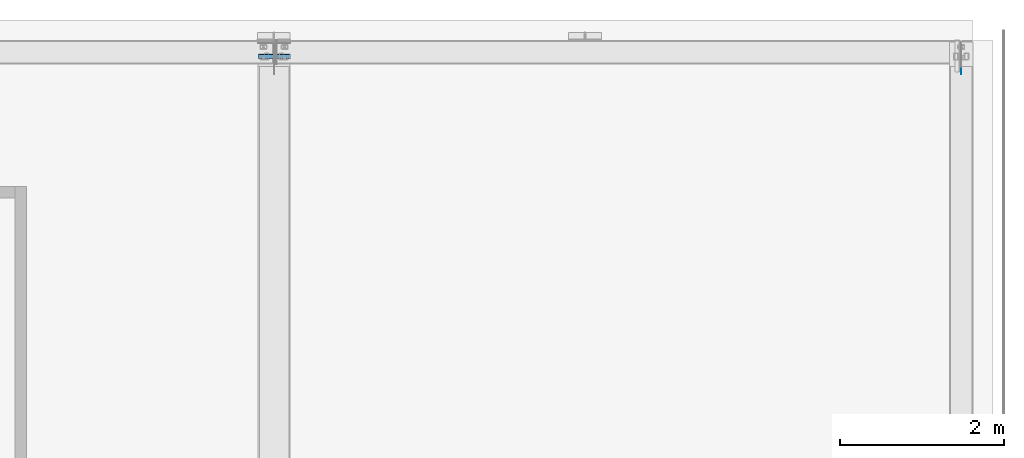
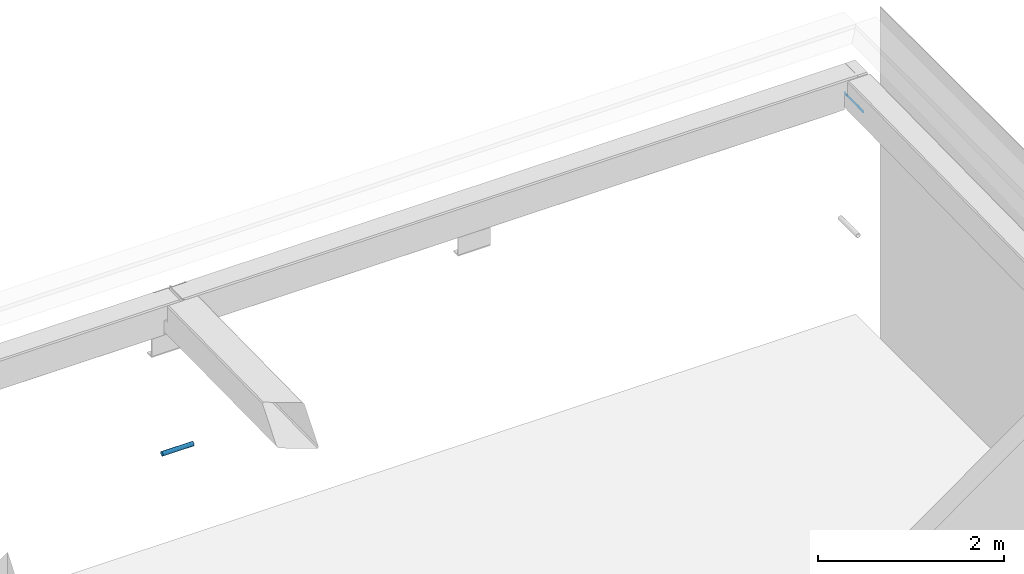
# One storey, part 52 of 186: 2 beams.
"""IFC4X3_ADD2 building model written with IfcOpenShell, lengths in millimetres."""

from ifc_helpers import new_model, si_unit, direction, frame, frame_2d, origin_with_axes, place, context, subcontext, project, spatial, rectangle, hollow_circle, extrude, material, element, save


model = new_model("IFC4X3_ADD2")

# Units and contexts
model_context = context("Model", 3, precision=1e-05, world=origin_with_axes(), true_north=direction((0.0, 1.0)))
body_context = subcontext(model_context, "Body", "Model", "MODEL_VIEW")
ifc_project = project(units=[si_unit("LENGTHUNIT", "METRE", prefix="MILLI"), si_unit("AREAUNIT", "SQUARE_METRE"), si_unit("VOLUMEUNIT", "CUBIC_METRE"), si_unit("PLANEANGLEUNIT", "RADIAN"), si_unit("TIMEUNIT", "SECOND"), si_unit("MASSUNIT", "GRAM")], contexts=[model_context])

# Site, building, storey
site_placement = place(None, origin_with_axes())
site = spatial("IfcSite", under=ifc_project, at=site_placement, Name="Site", CompositionType="ELEMENT")
building_placement = place(site_placement, origin_with_axes())
building = spatial("IfcBuilding", under=site, at=building_placement, Name="IFC Building Story")
storey_placement = place(building_placement, frame((0.0, 0.0, 4370.0), z_axis=(0.0, 0.0, 1.0), x_axis=(1.0, 0.0, 0.0)))
storey = spatial("IfcBuildingStorey", under=building, at=storey_placement, Name="ETAGE 10 (1)", Elevation=4370.0)

# Beams
ifc_material_1 = material(Name="STEEL/Accessory_invisible 261")
beam_1_placement = place(storey_placement, frame((48360.6886996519, 26335.0212705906, 2957.473649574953), z_axis=(1.0, 0.0, 0.0), x_axis=(0.0, -0.01552555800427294, 0.9998794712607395)))
element("IfcBeam", 1, at=beam_1_placement, inside=storey, material=ifc_material_1, Name="BEK4", ObjectType="11*1", context=body_context, shape_type="SweptSolid", body=[
    extrude(rectangle(XDim=11.000000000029, YDim=390.260904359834, at=frame_2d((0.0, 5.95523630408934e-12), x_axis=(1.0, 0.0))), origin_with_axes(), (0.0, 0.0, 1.0), 1.0),
])
ifc_material_2 = material(Name="STEEL/Accessory_PVC")
beam_2_placement = place(storey_placement, frame((39774.1887206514, 26354.9989624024, 1337.0), z_axis=(1.0, 0.0, 0.0), x_axis=(0.0, 0.0, -1.0)))
element("IfcBeam", 2, at=beam_2_placement, inside=storey, material=ifc_material_2, Name="PS13", ObjectType="O56*3", context=body_context, shape_type="SweptSolid", body=[
    extrude(hollow_circle(Radius=28.0, WallThickness=3.0, at=frame_2d((0.0, 5.95523630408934e-12), x_axis=(1.0, 0.0))), origin_with_axes(), (0.0, 0.0, 1.0), 384.0),
])

save(model, "model.ifc")
